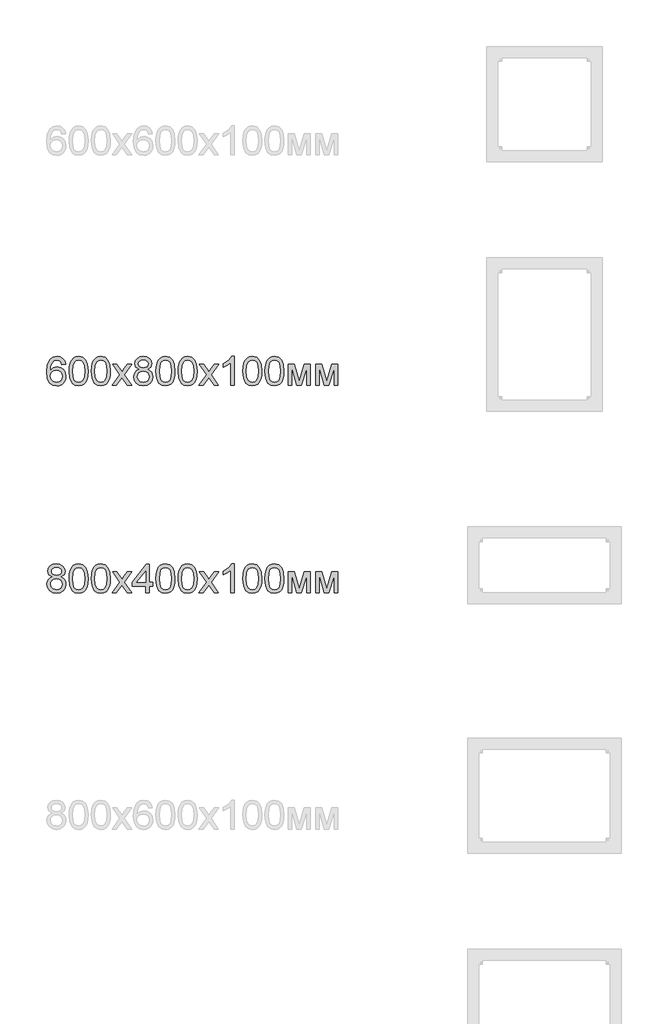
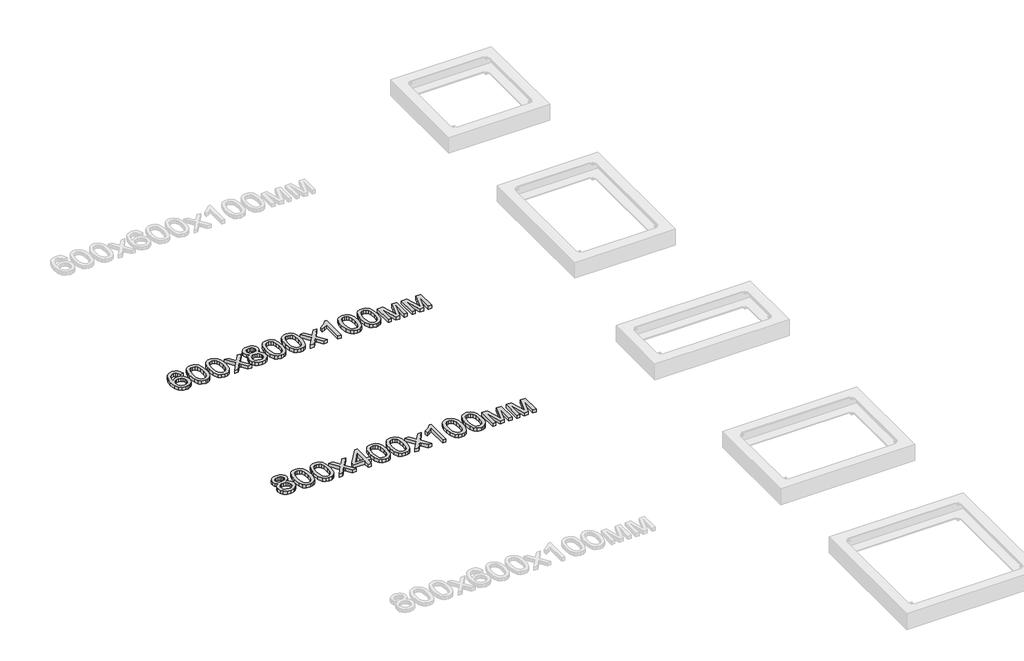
# One storey, part 2 of 3: 2 proxies.
"""IFC4 building model written with IfcOpenShell, lengths in millimetres."""

from ifc_helpers import new_model, si_unit, origin, origin_with_axes, place, context, project, spatial, polyline, outline, extrude, element, save

model = new_model("IFC4")

# Units and contexts
model_context = context("Model", 3, world=origin())
ifc_project = project(units=[si_unit("LENGTHUNIT", "METRE", prefix="MILLI")], contexts=[model_context])

# Site, building, storey
site = spatial("IfcSite", under=ifc_project)
building = spatial("IfcBuilding", under=site)
storey = spatial("IfcBuildingStorey", under=building, Name="Этаж 01", Elevation=0.0)

# Proxies
placement = place(None, origin())
element("IfcBuildingElementProxy", 1, Name="150 мм Arial", ObjectType="150 мм Arial", at=placement, inside=storey, context=model_context, shape_type="SweptSolid", body=[
    extrude(outline(polyline([(-2887.0834509, 379.0815713), (-2905.9190091, 376.7271266), (-2913.0559198, 392.4356878), (-2921.5999791, 398.3126026), (-2931.9282662, 400.2715743), (-2948.9244143, 395.7098375), (-2961.7818901, 378.5849307), (-2965.6860377, 364.5548311), (-2967.1345731, 345.0156986), (-2950.524701, 360.0436781), (-2929.9417034, 364.9549027), (-2912.540885, 361.5979795), (-2897.9359698, 351.5272099), (-2888.0307471, 336.1405455), (-2884.7290062, 316.8359378), (-2886.2833076, 303.3484641), (-2890.9462119, 290.8450748), (-2898.3314429, 280.2408763), (-2908.0527247, 272.450975), (-2919.6685987, 267.6639106), (-2932.7376065, 266.0682224), (-2954.1069519, 270.2988654), (-2971.1260927, 282.9907942), (-2982.2591216, 305.3948077), (-2985.9701312, 338.7617047), (-2981.8498529, 376.2764711), (-2969.4890179, 401.9270433), (-2952.6124313, 414.8121101), (-2930.7510438, 419.1071324), (-2914.2239451, 416.449185), (-2900.9893904, 408.4753428), (-2891.7187641, 395.8110051), (-2887.0834509, 379.0815713)]), holes=[polyline([(-2967.1345731, 317.1302434), (-2962.7751714, 300.8146769), (-2951.1868886, 288.9688766), (-2934.2091345, 284.9037806), (-2921.7793216, 287.009905), (-2912.0074561, 293.3282783), (-2905.6752873, 303.2610921), (-2903.5645643, 316.2105384), (-2905.6476961, 328.6403513), (-2911.8970915, 338.1179112), (-2921.8345039, 344.1189862), (-2934.9816867, 346.1193446), (-2947.3931055, 344.1189862), (-2957.7719763, 338.1179112), (-2964.7939239, 328.8702775), (-2967.1345731, 317.1302434)])]), origin_with_axes(), (0.0, 0.0, 1.0), 20.0),
    extrude(outline(polyline([(-2868.2478928, 342.5508892), (-2866.8637368, 366.6701525), (-2862.7112688, 385.9057824), (-2855.8318754, 400.5520843), (-2846.2669436, 410.9033639), (-2833.9474953, 417.0561903), (-2818.8045526, 419.1071324), (-2796.8052093, 414.2510901), (-2781.6116829, 400.2531802), (-2772.782515, 377.9595313), (-2769.3612125, 342.5508892), (-2770.7315729, 318.5695817), (-2774.8426542, 299.3799371), (-2781.6806608, 284.7198396), (-2791.2317971, 274.3271732), (-2803.5788366, 268.1329601), (-2818.8045526, 266.0682224), (-2838.3758748, 269.6550719), (-2853.2383074, 280.4156202), (-2864.4954964, 305.9006455), (-2868.2478928, 342.5508892)]), holes=[polyline([(-2849.4123346, 342.5876774), (-2847.2050427, 312.9593812), (-2840.5831667, 295.8114817), (-2830.7239293, 287.6307059), (-2818.8045526, 284.9037806), (-2806.885176, 287.6399029), (-2797.0259385, 295.8482699), (-2790.4040626, 313.0053665), (-2788.1967706, 342.5876774), (-2790.3304862, 371.5491875), (-2796.7316329, 388.8304442), (-2806.5724763, 397.4112918), (-2819.0252818, 400.2715743), (-2830.8158998, 397.7515826), (-2840.2888612, 390.1916076), (-2847.1314663, 371.834296), (-2849.4123346, 342.5876774)])]), origin_with_axes(), (0.0, 0.0, 1.0), 20.0),
    extrude(outline(polyline([(-2752.8800991, 342.5508892), (-2751.4959431, 366.6701525), (-2747.3434751, 385.9057824), (-2740.4640818, 400.5520843), (-2730.8991499, 410.9033639), (-2718.5797016, 417.0561903), (-2703.4367589, 419.1071324), (-2681.4374156, 414.2510901), (-2666.2438892, 400.2531802), (-2657.4147213, 377.9595313), (-2653.9934188, 342.5508892), (-2655.3637792, 318.5695817), (-2659.4748605, 299.3799371), (-2666.3128671, 284.7198396), (-2675.8640034, 274.3271732), (-2688.2110429, 268.1329601), (-2703.4367589, 266.0682224), (-2723.0080811, 269.6550719), (-2737.8705137, 280.4156202), (-2749.1277027, 305.9006455), (-2752.8800991, 342.5508892)]), holes=[polyline([(-2734.0445409, 342.5876774), (-2731.837249, 312.9593812), (-2725.2153731, 295.8114817), (-2715.3561356, 287.6307059), (-2703.4367589, 284.9037806), (-2691.5173823, 287.6399029), (-2681.6581448, 295.8482699), (-2675.0362689, 313.0053665), (-2672.8289769, 342.5876774), (-2674.9626925, 371.5491875), (-2681.3638392, 388.8304442), (-2691.2046826, 397.4112918), (-2703.6574881, 400.2715743), (-2715.4481061, 397.7515826), (-2724.9210675, 390.1916076), (-2731.7636726, 371.834296), (-2734.0445409, 342.5876774)])]), origin_with_axes(), (0.0, 0.0, 1.0), 20.0),
    extrude(outline(polyline([(-2644.5756397, 268.4226672), (-2604.3293494, 324.0464249), (-2642.2211949, 379.0815713), (-2619.559664, 379.0815713), (-2601.2759289, 352.5940677), (-2592.7410666, 340.0860799), (-2585.3466385, 350.3131993), (-2564.5245176, 379.0815713), (-2541.8629867, 379.0815713), (-2581.6678185, 324.0464249), (-2543.3345146, 268.4226672), (-2565.9960455, 268.4226672), (-2589.0622466, 301.8631406), (-2593.2928896, 307.9699817), (-2621.9141088, 268.4226672), (-2644.5756397, 268.4226672)])), origin_with_axes(), (0.0, 0.0, 1.0), 20.0),
    extrude(outline(polyline([(-2504.118294, 351.4168453), (-2521.279989, 363.1154928), (-2526.8534013, 381.3256515), (-2523.8183748, 396.0501284), (-2514.7132954, 408.2178254), (-2500.5590357, 416.3848057), (-2482.376468, 419.1071324), (-2464.0835358, 416.3204263), (-2449.7453351, 407.960308), (-2440.4747088, 395.5994729), (-2437.3845, 380.8106167), (-2442.8843359, 363.0603105), (-2459.5677843, 351.4168453), (-2447.974903, 345.4433614), (-2439.5366097, 336.6463832), (-2434.3908603, 325.448975), (-2432.6756105, 312.274201), (-2436.078519, 294.2663774), (-2446.2872443, 279.3855507), (-2462.0509878, 269.3975545), (-2482.1189506, 266.0682224), (-2502.1869135, 269.4113501), (-2517.950657, 279.440733), (-2528.1593823, 294.4641139), (-2531.5622908, 312.7892358), (-2529.7780631, 326.474446), (-2524.4253801, 337.7316351), (-2515.7801532, 346.1745269), (-2504.118294, 351.4168453)]), holes=[polyline([(-2508.0178431, 380.7738285), (-2506.3485786, 372.5516659), (-2501.3407849, 365.9849723), (-2493.1416149, 361.680753), (-2481.8982215, 360.2460132), (-2470.9169439, 361.6715559), (-2462.8419341, 365.9481841), (-2457.8755272, 372.2941485), (-2456.2200582, 379.9276999), (-2457.9307095, 387.8509584), (-2463.0626633, 394.4038564), (-2471.2480377, 398.8046448), (-2482.1189506, 400.2715743), (-2493.0588415, 398.8368345), (-2501.2304203, 394.5326151), (-2506.3209874, 388.2234389), (-2508.0178431, 380.7738285)]), polyline([(-2512.7267326, 313.4514234), (-2509.5813416, 299.2695725), (-2498.4529112, 288.6561769), (-2481.9717978, 284.9037806), (-2469.1511103, 286.8765478), (-2459.5309961, 292.7948494), (-2453.5161255, 301.7573745), (-2451.5111686, 312.8628122), (-2453.5805049, 324.1567895), (-2459.7885135, 333.3170511), (-2469.6293569, 339.3871041), (-2482.5971972, 341.410455), (-2495.2385423, 339.4146952), (-2504.7620875, 333.4274157), (-2510.7355713, 324.441898), (-2512.7267326, 313.4514234)])]), origin_with_axes(), (0.0, 0.0, 1.0), 20.0),
    extrude(outline(polyline([(-2416.1944971, 342.5508892), (-2414.8103411, 366.6701525), (-2410.6578731, 385.9057824), (-2403.7784798, 400.5520843), (-2394.2135479, 410.9033639), (-2381.8940996, 417.0561903), (-2366.751157, 419.1071324), (-2344.7518136, 414.2510901), (-2329.5582872, 400.2531802), (-2320.7291194, 377.9595313), (-2317.3078168, 342.5508892), (-2318.6781772, 318.5695817), (-2322.7892585, 299.3799371), (-2329.6272651, 284.7198396), (-2339.1784014, 274.3271732), (-2351.5254409, 268.1329601), (-2366.751157, 266.0682224), (-2386.3224791, 269.6550719), (-2401.1849117, 280.4156202), (-2412.4421008, 305.9006455), (-2416.1944971, 342.5508892)]), holes=[polyline([(-2397.358939, 342.5876774), (-2395.151647, 312.9593812), (-2388.5297711, 295.8114817), (-2378.6705336, 287.6307059), (-2366.751157, 284.9037806), (-2354.8317803, 287.6399029), (-2344.9725428, 295.8482699), (-2338.3506669, 313.0053665), (-2336.143375, 342.5876774), (-2338.2770905, 371.5491875), (-2344.6782372, 388.8304442), (-2354.5190806, 397.4112918), (-2366.9718862, 400.2715743), (-2378.7625041, 397.7515826), (-2388.2354655, 390.1916076), (-2395.0780706, 371.834296), (-2397.358939, 342.5876774)])]), origin_with_axes(), (0.0, 0.0, 1.0), 20.0),
    extrude(outline(polyline([(-2300.8267034, 342.5508892), (-2299.4425474, 366.6701525), (-2295.2900794, 385.9057824), (-2288.4106861, 400.5520843), (-2278.8457542, 410.9033639), (-2266.5263059, 417.0561903), (-2251.3833633, 419.1071324), (-2229.38402, 414.2510901), (-2214.1904936, 400.2531802), (-2205.3613257, 377.9595313), (-2201.9400231, 342.5508892), (-2203.3103836, 318.5695817), (-2207.4214648, 299.3799371), (-2214.2594714, 284.7198396), (-2223.8106077, 274.3271732), (-2236.1576472, 268.1329601), (-2251.3833633, 266.0682224), (-2270.9546854, 269.6550719), (-2285.817118, 280.4156202), (-2297.0743071, 305.9006455), (-2300.8267034, 342.5508892)]), holes=[polyline([(-2281.9911453, 342.5876774), (-2279.7838533, 312.9593812), (-2273.1619774, 295.8114817), (-2263.3027399, 287.6307059), (-2251.3833633, 284.9037806), (-2239.4639866, 287.6399029), (-2229.6047492, 295.8482699), (-2222.9828732, 313.0053665), (-2220.7755813, 342.5876774), (-2222.9092968, 371.5491875), (-2229.3104436, 388.8304442), (-2239.1512869, 397.4112918), (-2251.6040925, 400.2715743), (-2263.3947104, 397.7515826), (-2272.8676718, 390.1916076), (-2279.7102769, 371.834296), (-2281.9911453, 342.5876774)])]), origin_with_axes(), (0.0, 0.0, 1.0), 20.0),
    extrude(outline(polyline([(-2192.522244, 268.4226672), (-2152.2759538, 324.0464249), (-2190.1677993, 379.0815713), (-2167.5062684, 379.0815713), (-2149.2225332, 352.5940677), (-2140.6876709, 340.0860799), (-2133.2932428, 350.3131993), (-2112.4711219, 379.0815713), (-2089.809591, 379.0815713), (-2129.6144229, 324.0464249), (-2091.281119, 268.4226672), (-2113.9426499, 268.4226672), (-2137.008851, 301.8631406), (-2141.2394939, 307.9699817), (-2169.8607131, 268.4226672), (-2192.522244, 268.4226672)])), origin_with_axes(), (0.0, 0.0, 1.0), 20.0),
    extrude(outline(polyline([(-2008.8755521, 268.4226672), (-2027.7111102, 268.4226672), (-2027.7111102, 385.8506001), (-2045.553387, 373.1402771), (-2065.3822265, 363.6305276), (-2065.3822265, 381.4360161), (-2037.7726828, 399.0575637), (-2021.0156579, 419.1071324), (-2008.8755521, 419.1071324), (-2008.8755521, 268.4226672)])), origin_with_axes(), (0.0, 0.0, 1.0), 20.0),
    extrude(outline(polyline([(-1964.1411014, 342.5508892), (-1962.7569454, 366.6701525), (-1958.6044774, 385.9057824), (-1951.7250841, 400.5520843), (-1942.1601522, 410.9033639), (-1929.8407039, 417.0561903), (-1914.6977613, 419.1071324), (-1892.698418, 414.2510901), (-1877.5048916, 400.2531802), (-1868.6757237, 377.9595313), (-1865.2544211, 342.5508892), (-1866.6247816, 318.5695817), (-1870.7358629, 299.3799371), (-1877.5738694, 284.7198396), (-1887.1250057, 274.3271732), (-1899.4720452, 268.1329601), (-1914.6977613, 266.0682224), (-1934.2690834, 269.6550719), (-1949.131516, 280.4156202), (-1960.3887051, 305.9006455), (-1964.1411014, 342.5508892)]), holes=[polyline([(-1945.3055433, 342.5876774), (-1943.0982513, 312.9593812), (-1936.4763754, 295.8114817), (-1926.6171379, 287.6307059), (-1914.6977613, 284.9037806), (-1902.7783846, 287.6399029), (-1892.9191472, 295.8482699), (-1886.2972713, 313.0053665), (-1884.0899793, 342.5876774), (-1886.2236949, 371.5491875), (-1892.6248416, 388.8304442), (-1902.4656849, 397.4112918), (-1914.9184905, 400.2715743), (-1926.7091084, 397.7515826), (-1936.1820698, 390.1916076), (-1943.0246749, 371.834296), (-1945.3055433, 342.5876774)])]), origin_with_axes(), (0.0, 0.0, 1.0), 20.0),
    extrude(outline(polyline([(-1848.7733078, 342.5508892), (-1847.3891517, 366.6701525), (-1843.2366837, 385.9057824), (-1836.3572904, 400.5520843), (-1826.7923585, 410.9033639), (-1814.4729102, 417.0561903), (-1799.3299676, 419.1071324), (-1777.3306243, 414.2510901), (-1762.1370979, 400.2531802), (-1753.30793, 377.9595313), (-1749.8866274, 342.5508892), (-1751.2569879, 318.5695817), (-1755.3680692, 299.3799371), (-1762.2060758, 284.7198396), (-1771.7572121, 274.3271732), (-1784.1042515, 268.1329601), (-1799.3299676, 266.0682224), (-1818.9012897, 269.6550719), (-1833.7637223, 280.4156202), (-1845.0209114, 305.9006455), (-1848.7733078, 342.5508892)]), holes=[polyline([(-1829.9377496, 342.5876774), (-1827.7304576, 312.9593812), (-1821.1085817, 295.8114817), (-1811.2493442, 287.6307059), (-1799.3299676, 284.9037806), (-1787.410591, 287.6399029), (-1777.5513535, 295.8482699), (-1770.9294776, 313.0053665), (-1768.7221856, 342.5876774), (-1770.8559012, 371.5491875), (-1777.2570479, 388.8304442), (-1787.0978913, 397.4112918), (-1799.5506968, 400.2715743), (-1811.3413147, 397.7515826), (-1820.8142761, 390.1916076), (-1827.6568812, 371.834296), (-1829.9377496, 342.5876774)])]), origin_with_axes(), (0.0, 0.0, 1.0), 20.0),
    extrude(outline(polyline([(-1728.6966245, 379.0815713), (-1696.2862208, 379.0815713), (-1671.3070333, 290.4955869), (-1644.3780712, 379.0815713), (-1613.3288308, 379.0815713), (-1613.3288308, 268.4226672), (-1632.164389, 268.4226672), (-1632.164389, 357.5236864), (-1659.2405038, 268.4226672), (-1683.9621739, 268.4226672), (-1709.8610664, 361.7911176), (-1709.8610664, 268.4226672), (-1728.6966245, 268.4226672), (-1728.6966245, 379.0815713)])), origin_with_axes(), (0.0, 0.0, 1.0), 20.0),
    extrude(outline(polyline([(-1585.0754936, 379.0815713), (-1552.6650898, 379.0815713), (-1527.6859024, 290.4955869), (-1500.7569403, 379.0815713), (-1469.7076999, 379.0815713), (-1469.7076999, 268.4226672), (-1488.5432581, 268.4226672), (-1488.5432581, 357.5236864), (-1515.6193729, 268.4226672), (-1540.341043, 268.4226672), (-1566.2399355, 361.7911176), (-1566.2399355, 268.4226672), (-1585.0754936, 268.4226672), (-1585.0754936, 379.0815713)])), origin_with_axes(), (0.0, 0.0, 1.0), 20.0),
])
element("IfcBuildingElementProxy", 2, Name="150 мм Arial", ObjectType="150 мм Arial", at=placement, inside=storey, context=model_context, shape_type="SweptSolid", body=[
    extrude(outline(polyline([(-2956.1716896, -728.5831547), (-2973.3333847, -716.8845072), (-2978.9067969, -698.6743485), (-2975.8717705, -683.9498716), (-2966.7666911, -671.7821746), (-2952.6124313, -663.6151943), (-2934.4298637, -660.8928676), (-2916.1369315, -663.6795737), (-2901.7987307, -672.039692), (-2892.5281045, -684.4005271), (-2889.4378957, -699.1893833), (-2894.9377315, -716.9396895), (-2911.62118, -728.5831547), (-2900.0282986, -734.5566386), (-2891.5900054, -743.3536168), (-2886.444256, -754.551025), (-2884.7290062, -767.725799), (-2888.1319146, -785.7336226), (-2898.34064, -800.6144493), (-2914.1043835, -810.6024455), (-2934.1723463, -813.9317776), (-2954.2403092, -810.5886499), (-2970.0040527, -800.559267), (-2980.212778, -785.5358861), (-2983.6156865, -767.2107642), (-2981.8314588, -753.525554), (-2976.4787758, -742.2683649), (-2967.8335489, -733.8254731), (-2956.1716896, -728.5831547)]), holes=[polyline([(-2960.0712388, -699.2261715), (-2958.4019742, -707.4483341), (-2953.3941806, -714.0150277), (-2945.1950106, -718.319247), (-2933.9516171, -719.7539868), (-2922.9703396, -718.3284441), (-2914.8953298, -714.0518159), (-2909.9289228, -707.7058515), (-2908.2734539, -700.0723001), (-2909.9841051, -692.1490416), (-2915.116059, -685.5961436), (-2923.3014334, -681.1953552), (-2934.1723463, -679.7284257), (-2945.1122372, -681.1631655), (-2953.283816, -685.4673849), (-2958.3743831, -691.7765611), (-2960.0712388, -699.2261715)]), polyline([(-2964.7801283, -766.5485766), (-2961.6347373, -780.7304275), (-2950.5063069, -791.3438231), (-2934.0251935, -795.0962194), (-2921.204506, -793.1234522), (-2911.5843918, -787.2051506), (-2905.5695212, -778.2426255), (-2903.5645643, -767.1371878), (-2905.6339005, -755.8432105), (-2911.8419092, -746.6829489), (-2921.6827526, -740.6128959), (-2934.6505929, -738.589545), (-2947.291938, -740.5853048), (-2956.8154831, -746.5725843), (-2962.788967, -755.558102), (-2964.7801283, -766.5485766)])]), origin_with_axes(), (0.0, 0.0, 1.0), 20.0),
    extrude(outline(polyline([(-2868.2478928, -737.4491108), (-2866.8637368, -713.3298475), (-2862.7112688, -694.0942176), (-2855.8318754, -679.4479157), (-2846.2669436, -669.0966361), (-2833.9474953, -662.9438097), (-2818.8045526, -660.8928676), (-2796.8052093, -665.7489099), (-2781.6116829, -679.7468198), (-2772.782515, -702.0404687), (-2769.3612125, -737.4491108), (-2770.7315729, -761.4304183), (-2774.8426542, -780.6200629), (-2781.6806608, -795.2801604), (-2791.2317971, -805.6728268), (-2803.5788366, -811.8670399), (-2818.8045526, -813.9317776), (-2838.3758748, -810.3449281), (-2853.2383074, -799.5843798), (-2864.4954964, -774.0993545), (-2868.2478928, -737.4491108)]), holes=[polyline([(-2849.4123346, -737.4123226), (-2847.2050427, -767.0406188), (-2840.5831667, -784.1885183), (-2830.7239293, -792.3692941), (-2818.8045526, -795.0962194), (-2806.885176, -792.3600971), (-2797.0259385, -784.1517301), (-2790.4040626, -766.9946335), (-2788.1967706, -737.4123226), (-2790.3304862, -708.4508125), (-2796.7316329, -691.1695558), (-2806.5724763, -682.5887082), (-2819.0252818, -679.7284257), (-2830.8158998, -682.2484174), (-2840.2888612, -689.8083924), (-2847.1314663, -708.165704), (-2849.4123346, -737.4123226)])]), origin_with_axes(), (0.0, 0.0, 1.0), 20.0),
    extrude(outline(polyline([(-2752.8800991, -737.4491108), (-2751.4959431, -713.3298475), (-2747.3434751, -694.0942176), (-2740.4640818, -679.4479157), (-2730.8991499, -669.0966361), (-2718.5797016, -662.9438097), (-2703.4367589, -660.8928676), (-2681.4374156, -665.7489099), (-2666.2438892, -679.7468198), (-2657.4147213, -702.0404687), (-2653.9934188, -737.4491108), (-2655.3637792, -761.4304183), (-2659.4748605, -780.6200629), (-2666.3128671, -795.2801604), (-2675.8640034, -805.6728268), (-2688.2110429, -811.8670399), (-2703.4367589, -813.9317776), (-2723.0080811, -810.3449281), (-2737.8705137, -799.5843798), (-2749.1277027, -774.0993545), (-2752.8800991, -737.4491108)]), holes=[polyline([(-2734.0445409, -737.4123226), (-2731.837249, -767.0406188), (-2725.2153731, -784.1885183), (-2715.3561356, -792.3692941), (-2703.4367589, -795.0962194), (-2691.5173823, -792.3600971), (-2681.6581448, -784.1517301), (-2675.0362689, -766.9946335), (-2672.8289769, -737.4123226), (-2674.9626925, -708.4508125), (-2681.3638392, -691.1695558), (-2691.2046826, -682.5887082), (-2703.6574881, -679.7284257), (-2715.4481061, -682.2484174), (-2724.9210675, -689.8083924), (-2731.7636726, -708.165704), (-2734.0445409, -737.4123226)])]), origin_with_axes(), (0.0, 0.0, 1.0), 20.0),
    extrude(outline(polyline([(-2644.5756397, -811.5773328), (-2604.3293494, -755.9535751), (-2642.2211949, -700.9184287), (-2619.559664, -700.9184287), (-2601.2759289, -727.4059323), (-2592.7410666, -739.9139201), (-2585.3466385, -729.6868007), (-2564.5245176, -700.9184287), (-2541.8629867, -700.9184287), (-2581.6678185, -755.9535751), (-2543.3345146, -811.5773328), (-2565.9960455, -811.5773328), (-2589.0622466, -778.1368594), (-2593.2928896, -772.0300183), (-2621.9141088, -811.5773328), (-2644.5756397, -811.5773328)])), origin_with_axes(), (0.0, 0.0, 1.0), 20.0),
    extrude(outline(polyline([(-2470.3467268, -811.5773328), (-2470.3467268, -776.2606613), (-2538.6256251, -776.2606613), (-2538.6256251, -757.4251031), (-2465.6378373, -663.2473123), (-2451.5111686, -663.2473123), (-2451.5111686, -757.4251031), (-2432.6756105, -757.4251031), (-2432.6756105, -776.2606613), (-2451.5111686, -776.2606613), (-2451.5111686, -811.5773328), (-2470.3467268, -811.5773328)]), holes=[polyline([(-2470.3467268, -757.4251031), (-2470.3467268, -699.2261715), (-2515.4490594, -757.4251031), (-2470.3467268, -757.4251031)])]), origin_with_axes(), (0.0, 0.0, 1.0), 20.0),
    extrude(outline(polyline([(-2416.1944971, -737.4491108), (-2414.8103411, -713.3298475), (-2410.6578731, -694.0942176), (-2403.7784798, -679.4479157), (-2394.2135479, -669.0966361), (-2381.8940996, -662.9438097), (-2366.751157, -660.8928676), (-2344.7518136, -665.7489099), (-2329.5582872, -679.7468198), (-2320.7291194, -702.0404687), (-2317.3078168, -737.4491108), (-2318.6781772, -761.4304183), (-2322.7892585, -780.6200629), (-2329.6272651, -795.2801604), (-2339.1784014, -805.6728268), (-2351.5254409, -811.8670399), (-2366.751157, -813.9317776), (-2386.3224791, -810.3449281), (-2401.1849117, -799.5843798), (-2412.4421008, -774.0993545), (-2416.1944971, -737.4491108)]), holes=[polyline([(-2397.358939, -737.4123226), (-2395.151647, -767.0406188), (-2388.5297711, -784.1885183), (-2378.6705336, -792.3692941), (-2366.751157, -795.0962194), (-2354.8317803, -792.3600971), (-2344.9725428, -784.1517301), (-2338.3506669, -766.9946335), (-2336.143375, -737.4123226), (-2338.2770905, -708.4508125), (-2344.6782373, -691.1695558), (-2354.5190806, -682.5887082), (-2366.9718862, -679.7284257), (-2378.7625041, -682.2484174), (-2388.2354655, -689.8083924), (-2395.0780706, -708.165704), (-2397.358939, -737.4123226)])]), origin_with_axes(), (0.0, 0.0, 1.0), 20.0),
    extrude(outline(polyline([(-2300.8267034, -737.4491108), (-2299.4425474, -713.3298475), (-2295.2900794, -694.0942176), (-2288.4106861, -679.4479157), (-2278.8457542, -669.0966361), (-2266.5263059, -662.9438097), (-2251.3833633, -660.8928676), (-2229.38402, -665.7489099), (-2214.1904936, -679.7468198), (-2205.3613257, -702.0404687), (-2201.9400231, -737.4491108), (-2203.3103836, -761.4304183), (-2207.4214648, -780.6200629), (-2214.2594714, -795.2801604), (-2223.8106077, -805.6728268), (-2236.1576472, -811.8670399), (-2251.3833633, -813.9317776), (-2270.9546854, -810.3449281), (-2285.817118, -799.5843798), (-2297.0743071, -774.0993545), (-2300.8267034, -737.4491108)]), holes=[polyline([(-2281.9911453, -737.4123226), (-2279.7838533, -767.0406188), (-2273.1619774, -784.1885183), (-2263.3027399, -792.3692941), (-2251.3833633, -795.0962194), (-2239.4639866, -792.3600971), (-2229.6047492, -784.1517301), (-2222.9828732, -766.9946335), (-2220.7755813, -737.4123226), (-2222.9092968, -708.4508125), (-2229.3104436, -691.1695558), (-2239.1512869, -682.5887082), (-2251.6040925, -679.7284257), (-2263.3947104, -682.2484174), (-2272.8676718, -689.8083924), (-2279.7102769, -708.165704), (-2281.9911453, -737.4123226)])]), origin_with_axes(), (0.0, 0.0, 1.0), 20.0),
    extrude(outline(polyline([(-2192.522244, -811.5773328), (-2152.2759538, -755.9535751), (-2190.1677993, -700.9184287), (-2167.5062684, -700.9184287), (-2149.2225332, -727.4059323), (-2140.6876709, -739.9139201), (-2133.2932428, -729.6868007), (-2112.4711219, -700.9184287), (-2089.809591, -700.9184287), (-2129.6144229, -755.9535751), (-2091.281119, -811.5773328), (-2113.9426499, -811.5773328), (-2137.008851, -778.1368594), (-2141.2394939, -772.0300183), (-2169.8607131, -811.5773328), (-2192.522244, -811.5773328)])), origin_with_axes(), (0.0, 0.0, 1.0), 20.0),
    extrude(outline(polyline([(-2008.8755521, -811.5773328), (-2027.7111102, -811.5773328), (-2027.7111102, -694.1493999), (-2045.553387, -706.8597229), (-2065.3822265, -716.3694724), (-2065.3822265, -698.5639839), (-2037.7726828, -680.9424363), (-2021.0156579, -660.8928676), (-2008.8755521, -660.8928676), (-2008.8755521, -811.5773328)])), origin_with_axes(), (0.0, 0.0, 1.0), 20.0),
    extrude(outline(polyline([(-1964.1411014, -737.4491108), (-1962.7569454, -713.3298475), (-1958.6044774, -694.0942176), (-1951.7250841, -679.4479157), (-1942.1601522, -669.0966361), (-1929.8407039, -662.9438097), (-1914.6977613, -660.8928676), (-1892.698418, -665.7489099), (-1877.5048916, -679.7468198), (-1868.6757237, -702.0404687), (-1865.2544211, -737.4491108), (-1866.6247816, -761.4304183), (-1870.7358629, -780.6200629), (-1877.5738694, -795.2801604), (-1887.1250057, -805.6728268), (-1899.4720452, -811.8670399), (-1914.6977613, -813.9317776), (-1934.2690834, -810.3449281), (-1949.131516, -799.5843798), (-1960.3887051, -774.0993545), (-1964.1411014, -737.4491108)]), holes=[polyline([(-1945.3055433, -737.4123226), (-1943.0982513, -767.0406188), (-1936.4763754, -784.1885183), (-1926.6171379, -792.3692941), (-1914.6977613, -795.0962194), (-1902.7783846, -792.3600971), (-1892.9191472, -784.1517301), (-1886.2972713, -766.9946335), (-1884.0899793, -737.4123226), (-1886.2236949, -708.4508125), (-1892.6248416, -691.1695558), (-1902.4656849, -682.5887082), (-1914.9184905, -679.7284257), (-1926.7091084, -682.2484174), (-1936.1820698, -689.8083924), (-1943.0246749, -708.165704), (-1945.3055433, -737.4123226)])]), origin_with_axes(), (0.0, 0.0, 1.0), 20.0),
    extrude(outline(polyline([(-1848.7733078, -737.4491108), (-1847.3891517, -713.3298475), (-1843.2366837, -694.0942176), (-1836.3572904, -679.4479157), (-1826.7923585, -669.0966361), (-1814.4729102, -662.9438097), (-1799.3299676, -660.8928676), (-1777.3306243, -665.7489099), (-1762.1370979, -679.7468198), (-1753.30793, -702.0404687), (-1749.8866274, -737.4491108), (-1751.2569879, -761.4304183), (-1755.3680692, -780.6200629), (-1762.2060758, -795.2801604), (-1771.7572121, -805.6728268), (-1784.1042515, -811.8670399), (-1799.3299676, -813.9317776), (-1818.9012897, -810.3449281), (-1833.7637223, -799.5843798), (-1845.0209114, -774.0993545), (-1848.7733078, -737.4491108)]), holes=[polyline([(-1829.9377496, -737.4123226), (-1827.7304576, -767.0406188), (-1821.1085817, -784.1885183), (-1811.2493442, -792.3692941), (-1799.3299676, -795.0962194), (-1787.410591, -792.3600971), (-1777.5513535, -784.1517301), (-1770.9294776, -766.9946335), (-1768.7221856, -737.4123226), (-1770.8559012, -708.4508125), (-1777.2570479, -691.1695558), (-1787.0978913, -682.5887082), (-1799.5506968, -679.7284257), (-1811.3413147, -682.2484174), (-1820.8142761, -689.8083924), (-1827.6568812, -708.165704), (-1829.9377496, -737.4123226)])]), origin_with_axes(), (0.0, 0.0, 1.0), 20.0),
    extrude(outline(polyline([(-1728.6966245, -700.9184287), (-1696.2862208, -700.9184287), (-1671.3070333, -789.5044131), (-1644.3780712, -700.9184287), (-1613.3288308, -700.9184287), (-1613.3288308, -811.5773328), (-1632.164389, -811.5773328), (-1632.164389, -722.4763136), (-1659.2405038, -811.5773328), (-1683.9621739, -811.5773328), (-1709.8610664, -718.2088824), (-1709.8610664, -811.5773328), (-1728.6966245, -811.5773328), (-1728.6966245, -700.9184287)])), origin_with_axes(), (0.0, 0.0, 1.0), 20.0),
    extrude(outline(polyline([(-1585.0754936, -700.9184287), (-1552.6650898, -700.9184287), (-1527.6859024, -789.5044131), (-1500.7569403, -700.9184287), (-1469.7076999, -700.9184287), (-1469.7076999, -811.5773328), (-1488.5432581, -811.5773328), (-1488.5432581, -722.4763136), (-1515.6193729, -811.5773328), (-1540.341043, -811.5773328), (-1566.2399355, -718.2088824), (-1566.2399355, -811.5773328), (-1585.0754936, -811.5773328), (-1585.0754936, -700.9184287)])), origin_with_axes(), (0.0, 0.0, 1.0), 20.0),
])

save(model, "model.ifc")
